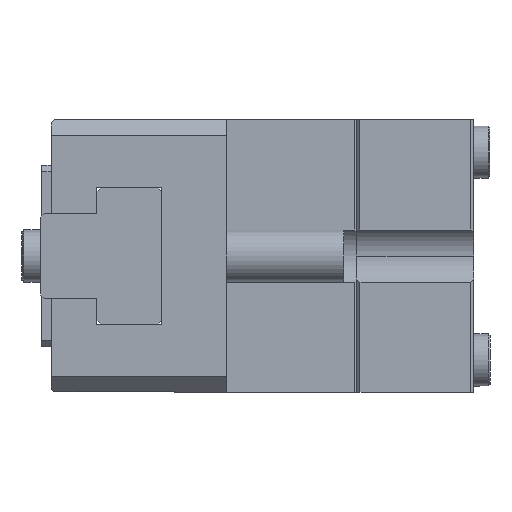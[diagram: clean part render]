
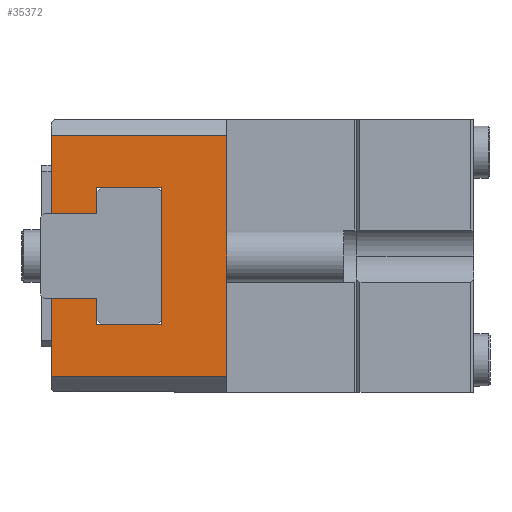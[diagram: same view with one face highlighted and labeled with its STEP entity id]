
A CAD part, left-side view. The second image highlights one B-rep face of the part: STEP entity #35372.
In plain terms, the highlighted planar face has unit normal (-1, 0, 0).
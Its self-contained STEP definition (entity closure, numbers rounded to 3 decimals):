
#1288 = LINE ( 'NONE', #50311, #32374 ) ;
#1378 = CARTESIAN_POINT ( 'NONE',  ( -40., 40., 10.6 ) ) ;
#1446 = CARTESIAN_POINT ( 'NONE',  ( -40., 40., -6.8 ) ) ;
#1910 = LINE ( 'NONE', #10068, #23513 ) ;
#2004 = VERTEX_POINT ( 'NONE', #35780 ) ;
#2012 = LINE ( 'NONE', #1446, #22329 ) ;
#2381 = ORIENTED_EDGE ( 'NONE', *, *, #33977, .F. ) ;
#2751 = DIRECTION ( 'NONE',  ( 0., 1., 0. ) ) ;
#2754 = ORIENTED_EDGE ( 'NONE', *, *, #8955, .F. ) ;
#2808 = EDGE_CURVE ( 'NONE', #18508, #44040, #36964, .T. ) ;
#2925 = CARTESIAN_POINT ( 'NONE',  ( -40., 0., 18.5 ) ) ;
#3697 = VECTOR ( 'NONE', #5554, 1000. ) ;
#4179 = VERTEX_POINT ( 'NONE', #51373 ) ;
#4514 = VECTOR ( 'NONE', #15802, 1000. ) ;
#4954 = CARTESIAN_POINT ( 'NONE',  ( -40., 46.7, 6.5 ) ) ;
#5554 = DIRECTION ( 'NONE',  ( 0., -1., 0. ) ) ;
#5719 = CARTESIAN_POINT ( 'NONE',  ( -40., 40.3, 6.5 ) ) ;
#6703 = CARTESIAN_POINT ( 'NONE',  ( -40., 40., 6.8 ) ) ;
#7149 = VERTEX_POINT ( 'NONE', #46565 ) ;
#8063 = VERTEX_POINT ( 'NONE', #29017 ) ;
#8222 = CARTESIAN_POINT ( 'NONE',  ( -40., 40., -10.6 ) ) ;
#8730 = EDGE_CURVE ( 'NONE', #39446, #23299, #18360, .T. ) ;
#8955 = EDGE_CURVE ( 'NONE', #37412, #18508, #33522, .T. ) ;
#9222 = ORIENTED_EDGE ( 'NONE', *, *, #17489, .T. ) ;
#9841 = DIRECTION ( 'NONE',  ( 0., 1., 0. ) ) ;
#9925 = VERTEX_POINT ( 'NONE', #22417 ) ;
#10068 = CARTESIAN_POINT ( 'NONE',  ( -40., 40., 21. ) ) ;
#10217 = VECTOR ( 'NONE', #9841, 1000. ) ;
#10563 = ORIENTED_EDGE ( 'NONE', *, *, #48638, .T. ) ;
#11732 = CARTESIAN_POINT ( 'NONE',  ( -40., 20., -6.5 ) ) ;
#11751 = CARTESIAN_POINT ( 'NONE',  ( -40., 20., 21. ) ) ;
#13648 = EDGE_CURVE ( 'NONE', #8063, #32921, #32029, .T. ) ;
#14059 = LINE ( 'NONE', #39678, #46434 ) ;
#14198 = CARTESIAN_POINT ( 'NONE',  ( -40., 40., 21. ) ) ;
#14904 = CARTESIAN_POINT ( 'NONE',  ( -40., 20., 10.6 ) ) ;
#15157 = VERTEX_POINT ( 'NONE', #41117 ) ;
#15512 = ORIENTED_EDGE ( 'NONE', *, *, #13648, .T. ) ;
#15802 = DIRECTION ( 'NONE',  ( 0., -1., 0. ) ) ;
#15826 = DIRECTION ( 'NONE',  ( 1., 0., 0. ) ) ;
#16005 = DIRECTION ( 'NONE',  ( 0., 0., 1. ) ) ;
#16494 = ORIENTED_EDGE ( 'NONE', *, *, #36630, .F. ) ;
#17489 = EDGE_CURVE ( 'NONE', #9925, #7149, #2012, .T. ) ;
#17512 = VERTEX_POINT ( 'NONE', #5719 ) ;
#17801 = LINE ( 'NONE', #39404, #38092 ) ;
#17892 = EDGE_CURVE ( 'NONE', #46395, #2004, #44510, .T. ) ;
#18203 = EDGE_CURVE ( 'NONE', #4179, #7149, #47661, .T. ) ;
#18360 = LINE ( 'NONE', #36223, #38642 ) ;
#18508 = VERTEX_POINT ( 'NONE', #1378 ) ;
#18916 = CARTESIAN_POINT ( 'NONE',  ( -40., 30., -10.6 ) ) ;
#19018 = DIRECTION ( 'NONE',  ( 0., 1., 0. ) ) ;
#19029 = DIRECTION ( 'NONE',  ( 0., 0., -1. ) ) ;
#19217 = EDGE_CURVE ( 'NONE', #32921, #15157, #38857, .T. ) ;
#19475 = CARTESIAN_POINT ( 'NONE',  ( -40., 47., -6.8 ) ) ;
#19745 = PLANE ( 'NONE',  #21964 ) ;
#19978 = EDGE_CURVE ( 'NONE', #21557, #37412, #14059, .T. ) ;
#19980 = ORIENTED_EDGE ( 'NONE', *, *, #2808, .F. ) ;
#21557 = VERTEX_POINT ( 'NONE', #18916 ) ;
#21964 = AXIS2_PLACEMENT_3D ( 'NONE', #11751, #15826, #44185 ) ;
#21973 = EDGE_CURVE ( 'NONE', #15157, #2004, #17801, .T. ) ;
#22272 = ORIENTED_EDGE ( 'NONE', *, *, #21973, .T. ) ;
#22329 = VECTOR ( 'NONE', #33867, 1000. ) ;
#22417 = CARTESIAN_POINT ( 'NONE',  ( -40., 40., -6.8 ) ) ;
#22784 = VECTOR ( 'NONE', #19018, 1000. ) ;
#23299 = VERTEX_POINT ( 'NONE', #19475 ) ;
#23513 = VECTOR ( 'NONE', #34320, 1000. ) ;
#23918 = ORIENTED_EDGE ( 'NONE', *, *, #18203, .F. ) ;
#24229 = VECTOR ( 'NONE', #41465, 1000. ) ;
#24552 = ORIENTED_EDGE ( 'NONE', *, *, #27297, .T. ) ;
#24572 = ORIENTED_EDGE ( 'NONE', *, *, #38689, .F. ) ;
#25244 = LINE ( 'NONE', #37645, #3697 ) ;
#26173 = VECTOR ( 'NONE', #30681, 1000. ) ;
#26468 = CARTESIAN_POINT ( 'NONE',  ( -40., 20., 18.5 ) ) ;
#26855 = DIRECTION ( 'NONE',  ( 0., 1., 0. ) ) ;
#26893 = CARTESIAN_POINT ( 'NONE',  ( -40., 30., 10.6 ) ) ;
#27229 = CARTESIAN_POINT ( 'NONE',  ( -40., 46.7, -6.5 ) ) ;
#27297 = EDGE_CURVE ( 'NONE', #4179, #23299, #42239, .T. ) ;
#29017 = CARTESIAN_POINT ( 'NONE',  ( -40., 20., -18.5 ) ) ;
#29771 = DIRECTION ( 'NONE',  ( 0., 0., 1. ) ) ;
#30681 = DIRECTION ( 'NONE',  ( 0., 0., -1. ) ) ;
#30903 = CARTESIAN_POINT ( 'NONE',  ( -40., 20., -18.5 ) ) ;
#32029 = LINE ( 'NONE', #50007, #44096 ) ;
#32374 = VECTOR ( 'NONE', #33971, 1000. ) ;
#32921 = VERTEX_POINT ( 'NONE', #26468 ) ;
#33097 = VERTEX_POINT ( 'NONE', #8222 ) ;
#33522 = LINE ( 'NONE', #14904, #22784 ) ;
#33558 = ORIENTED_EDGE ( 'NONE', *, *, #17892, .F. ) ;
#33867 = DIRECTION ( 'NONE',  ( 0., 0.707, 0.707 ) ) ;
#33971 = DIRECTION ( 'NONE',  ( 0., -0.707, 0.707 ) ) ;
#33977 = EDGE_CURVE ( 'NONE', #17512, #46395, #52069, .T. ) ;
#34320 = DIRECTION ( 'NONE',  ( 0., 0., -1. ) ) ;
#34330 = CARTESIAN_POINT ( 'NONE',  ( -40., 46.7, 6.5 ) ) ;
#34653 = ORIENTED_EDGE ( 'NONE', *, *, #50345, .F. ) ;
#35372 = ADVANCED_FACE ( 'NONE', ( #51964 ), #19745, .F. ) ;
#35780 = CARTESIAN_POINT ( 'NONE',  ( -40., 47., 6.8 ) ) ;
#36223 = CARTESIAN_POINT ( 'NONE',  ( -40., 47., 21. ) ) ;
#36630 = EDGE_CURVE ( 'NONE', #33097, #21557, #25244, .T. ) ;
#36964 = LINE ( 'NONE', #14198, #26173 ) ;
#37412 = VERTEX_POINT ( 'NONE', #26893 ) ;
#37645 = CARTESIAN_POINT ( 'NONE',  ( -40., 20., -10.6 ) ) ;
#38092 = VECTOR ( 'NONE', #19029, 1000. ) ;
#38642 = VECTOR ( 'NONE', #16005, 1000. ) ;
#38689 = EDGE_CURVE ( 'NONE', #8063, #39446, #48014, .T. ) ;
#38857 = LINE ( 'NONE', #2925, #50899 ) ;
#39404 = CARTESIAN_POINT ( 'NONE',  ( -40., 47., 21. ) ) ;
#39446 = VERTEX_POINT ( 'NONE', #41469 ) ;
#39678 = CARTESIAN_POINT ( 'NONE',  ( -40., 30., 21. ) ) ;
#39996 = DIRECTION ( 'NONE',  ( 0., 0.707, -0.707 ) ) ;
#41117 = CARTESIAN_POINT ( 'NONE',  ( -40., 47., 18.5 ) ) ;
#41465 = DIRECTION ( 'NONE',  ( 0., 0.707, 0.707 ) ) ;
#41469 = CARTESIAN_POINT ( 'NONE',  ( -40., 47., -18.5 ) ) ;
#42239 = LINE ( 'NONE', #27229, #43526 ) ;
#43036 = ORIENTED_EDGE ( 'NONE', *, *, #19978, .F. ) ;
#43526 = VECTOR ( 'NONE', #39996, 1000. ) ;
#44040 = VERTEX_POINT ( 'NONE', #6703 ) ;
#44096 = VECTOR ( 'NONE', #29771, 1000. ) ;
#44185 = DIRECTION ( 'NONE',  ( 0., 0., -1. ) ) ;
#44510 = LINE ( 'NONE', #4954, #24229 ) ;
#46395 = VERTEX_POINT ( 'NONE', #34330 ) ;
#46434 = VECTOR ( 'NONE', #51368, 1000. ) ;
#46565 = CARTESIAN_POINT ( 'NONE',  ( -40., 40.3, -6.5 ) ) ;
#46723 = VECTOR ( 'NONE', #26855, 1000. ) ;
#47192 = ORIENTED_EDGE ( 'NONE', *, *, #8730, .F. ) ;
#47661 = LINE ( 'NONE', #11732, #4514 ) ;
#48014 = LINE ( 'NONE', #30903, #46723 ) ;
#48638 = EDGE_CURVE ( 'NONE', #17512, #44040, #1288, .T. ) ;
#49878 = CARTESIAN_POINT ( 'NONE',  ( -40., 20., 6.5 ) ) ;
#49974 = EDGE_LOOP ( 'NONE', ( #24552, #47192, #24572, #15512, #50612, #22272, #33558, #2381, #10563, #19980, #2754, #43036, #16494, #34653, #9222, #23918 ) ) ;
#50007 = CARTESIAN_POINT ( 'NONE',  ( -40., 20., 21. ) ) ;
#50311 = CARTESIAN_POINT ( 'NONE',  ( -40., 40., 6.8 ) ) ;
#50345 = EDGE_CURVE ( 'NONE', #9925, #33097, #1910, .T. ) ;
#50612 = ORIENTED_EDGE ( 'NONE', *, *, #19217, .T. ) ;
#50899 = VECTOR ( 'NONE', #2751, 1000. ) ;
#51368 = DIRECTION ( 'NONE',  ( 0., 0., 1. ) ) ;
#51373 = CARTESIAN_POINT ( 'NONE',  ( -40., 46.7, -6.5 ) ) ;
#51964 = FACE_OUTER_BOUND ( 'NONE', #49974, .T. ) ;
#52069 = LINE ( 'NONE', #49878, #10217 ) ;
